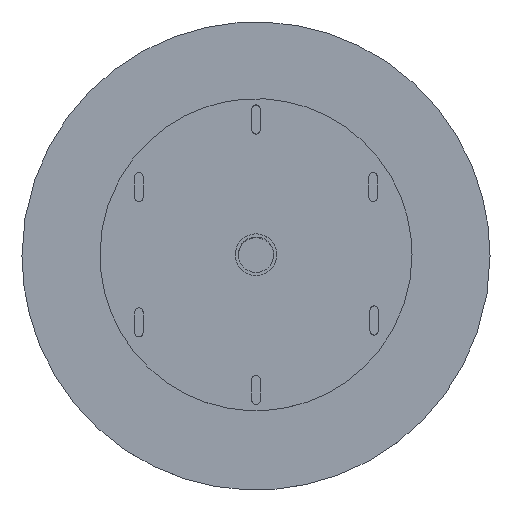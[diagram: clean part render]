
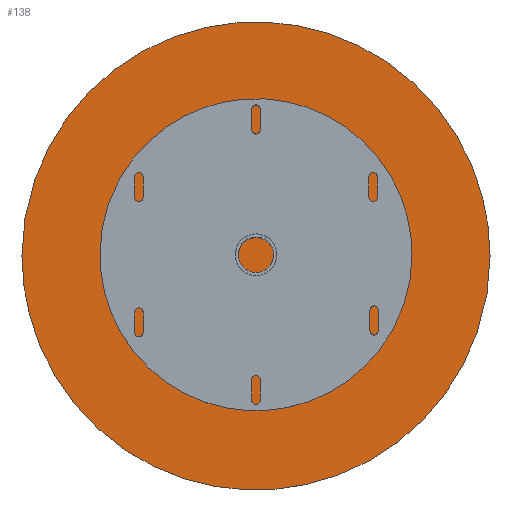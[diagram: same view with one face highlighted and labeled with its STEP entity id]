
A CAD part, top view. The second image highlights one B-rep face of the part: STEP entity #138.
In plain terms, the highlighted planar face has unit normal (0, 0, 1).
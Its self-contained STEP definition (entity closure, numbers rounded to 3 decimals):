
#138=ADVANCED_FACE('',(#202),#981,.T.);
#202=FACE_OUTER_BOUND('',#282,.T.);
#282=EDGE_LOOP('',(#505,#506));
#505=ORIENTED_EDGE('',*,*,#709,.F.);
#506=ORIENTED_EDGE('',*,*,#705,.F.);
#705=EDGE_CURVE('',#933,#935,#811,.T.);
#709=EDGE_CURVE('',#935,#933,#815,.T.);
#811=(
BOUNDED_CURVE()
B_SPLINE_CURVE(2,(#1715,#1716,#1717,#1718,#1719),.UNSPECIFIED.,.F.,.F.)
B_SPLINE_CURVE_WITH_KNOTS((3,2,3),(0.,353.429,706.858),
 .UNSPECIFIED.)
CURVE()
GEOMETRIC_REPRESENTATION_ITEM()
RATIONAL_B_SPLINE_CURVE((1.,0.707,1.,0.707,1.))
REPRESENTATION_ITEM('')
);
#815=(
BOUNDED_CURVE()
B_SPLINE_CURVE(2,(#1729,#1730,#1731,#1732,#1733),.UNSPECIFIED.,.F.,.F.)
B_SPLINE_CURVE_WITH_KNOTS((3,2,3),(706.858,1060.288,1413.717),
 .UNSPECIFIED.)
CURVE()
GEOMETRIC_REPRESENTATION_ITEM()
RATIONAL_B_SPLINE_CURVE((1.,0.707,1.,0.707,1.))
REPRESENTATION_ITEM('')
);
#933=VERTEX_POINT('',#1711);
#935=VERTEX_POINT('',#1713);
#981=PLANE('',#1065);
#1065=AXIS2_PLACEMENT_3D('',#1699,#1088,$);
#1088=DIRECTION('',(0.,0.,1.));
#1699=CARTESIAN_POINT('',(322.75,281.25,8.));
#1711=CARTESIAN_POINT('',(829.,0.,8.));
#1713=CARTESIAN_POINT('',(379.,0.,8.));
#1715=CARTESIAN_POINT('',(829.,0.,8.));
#1716=CARTESIAN_POINT('',(829.,-225.,8.));
#1717=CARTESIAN_POINT('',(604.,-225.,8.));
#1718=CARTESIAN_POINT('',(379.,-225.,8.));
#1719=CARTESIAN_POINT('',(379.,0.,8.));
#1729=CARTESIAN_POINT('',(379.,0.,8.));
#1730=CARTESIAN_POINT('',(379.,225.,8.));
#1731=CARTESIAN_POINT('',(604.,225.,8.));
#1732=CARTESIAN_POINT('',(829.,225.,8.));
#1733=CARTESIAN_POINT('',(829.,0.,8.));
